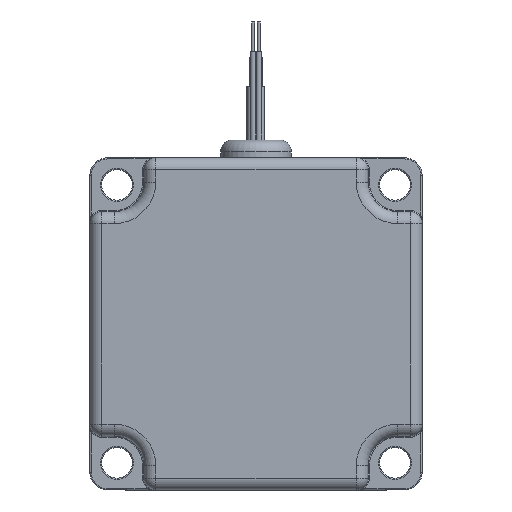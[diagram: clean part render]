
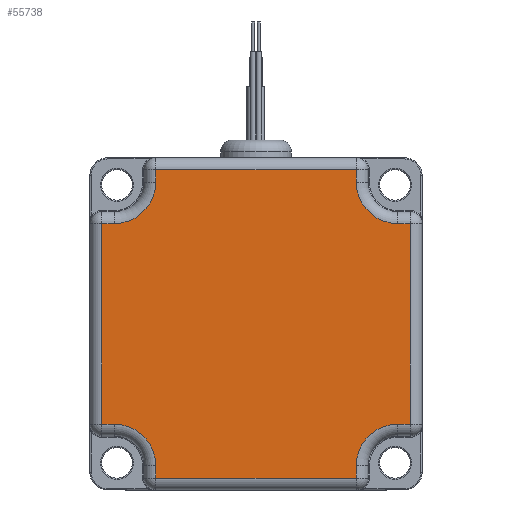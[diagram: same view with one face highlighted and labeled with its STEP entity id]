
A CAD part, front view. The second image highlights one B-rep face of the part: STEP entity #55738.
In plain terms, the highlighted planar face has unit normal (0, -1, 0).
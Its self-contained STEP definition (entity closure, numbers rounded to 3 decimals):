
#727 = CARTESIAN_POINT ( 'NONE',  ( -24., -40., 17. ) ) ;
#2158 = DIRECTION ( 'NONE',  ( -1., 0., 0. ) ) ;
#2282 = CARTESIAN_POINT ( 'NONE',  ( -28.15, -40., 17. ) ) ;
#4671 = VECTOR ( 'NONE', #41211, 1000. ) ;
#4952 = EDGE_CURVE ( 'NONE', #20240, #29095, #12862, .T. ) ;
#5496 = LINE ( 'NONE', #34024, #4671 ) ;
#5805 = VERTEX_POINT ( 'NONE', #17423 ) ;
#7321 = ORIENTED_EDGE ( 'NONE', *, *, #35716, .T. ) ;
#7550 = LINE ( 'NONE', #60393, #38331 ) ;
#7903 = EDGE_CURVE ( 'NONE', #11742, #20240, #38799, .T. ) ;
#8823 = VERTEX_POINT ( 'NONE', #727 ) ;
#9208 = CIRCLE ( 'NONE', #18928, 7. ) ;
#9653 = CARTESIAN_POINT ( 'NONE',  ( 0., -40., -17. ) ) ;
#11529 = CARTESIAN_POINT ( 'NONE',  ( -24., -40., 24. ) ) ;
#11742 = VERTEX_POINT ( 'NONE', #34541 ) ;
#11847 = CARTESIAN_POINT ( 'NONE',  ( 24., -40., -24. ) ) ;
#12862 = CIRCLE ( 'NONE', #44493, 7. ) ;
#12892 = ORIENTED_EDGE ( 'NONE', *, *, #62024, .T. ) ;
#13196 = CARTESIAN_POINT ( 'NONE',  ( 17., -40., 28.15 ) ) ;
#13566 = DIRECTION ( 'NONE',  ( 0., 0., -1. ) ) ;
#15147 = ORIENTED_EDGE ( 'NONE', *, *, #62195, .T. ) ;
#15561 = CARTESIAN_POINT ( 'NONE',  ( 17., -40., 0. ) ) ;
#15682 = LINE ( 'NONE', #33224, #44435 ) ;
#16106 = LINE ( 'NONE', #9653, #40087 ) ;
#16281 = CARTESIAN_POINT ( 'NONE',  ( -17., -40., 26.15 ) ) ;
#16453 = VERTEX_POINT ( 'NONE', #59052 ) ;
#17170 = DIRECTION ( 'NONE',  ( 1., 0., 0. ) ) ;
#17423 = CARTESIAN_POINT ( 'NONE',  ( 17., -40., 26.15 ) ) ;
#17629 = EDGE_CURVE ( 'NONE', #5805, #32455, #7550, .T. ) ;
#17922 = CARTESIAN_POINT ( 'NONE',  ( -24., -40., -24. ) ) ;
#18290 = DIRECTION ( 'NONE',  ( 0., 1., 0. ) ) ;
#18484 = CARTESIAN_POINT ( 'NONE',  ( 26.15, -40., 0. ) ) ;
#18873 = DIRECTION ( 'NONE',  ( 0., 0., 1. ) ) ;
#18928 = AXIS2_PLACEMENT_3D ( 'NONE', #17922, #34361, #29737 ) ;
#19862 = VERTEX_POINT ( 'NONE', #26245 ) ;
#20240 = VERTEX_POINT ( 'NONE', #71372 ) ;
#20497 = DIRECTION ( 'NONE',  ( 0., 0., -1. ) ) ;
#20547 = CARTESIAN_POINT ( 'NONE',  ( -26.15, -40., -19. ) ) ;
#22836 = VECTOR ( 'NONE', #25446, 1000. ) ;
#23837 = AXIS2_PLACEMENT_3D ( 'NONE', #32729, #67710, #20497 ) ;
#24506 = VERTEX_POINT ( 'NONE', #63405 ) ;
#25045 = EDGE_LOOP ( 'NONE', ( #36394, #62938, #32869, #48010, #42410, #29382, #61009, #70482, #55809, #69813, #7321, #15147, #63431, #48466, #12892, #65326 ) ) ;
#25246 = VERTEX_POINT ( 'NONE', #26576 ) ;
#25446 = DIRECTION ( 'NONE',  ( -1., 0., 0. ) ) ;
#26245 = CARTESIAN_POINT ( 'NONE',  ( 17., -40., 24. ) ) ;
#26469 = LINE ( 'NONE', #72621, #72963 ) ;
#26576 = CARTESIAN_POINT ( 'NONE',  ( -26.15, -40., -17. ) ) ;
#27231 = CIRCLE ( 'NONE', #71099, 7. ) ;
#27263 = VECTOR ( 'NONE', #64183, 1000. ) ;
#27959 = EDGE_CURVE ( 'NONE', #24506, #25246, #38846, .T. ) ;
#29095 = VERTEX_POINT ( 'NONE', #36996 ) ;
#29382 = ORIENTED_EDGE ( 'NONE', *, *, #48099, .T. ) ;
#29423 = DIRECTION ( 'NONE',  ( 0., 0., -1. ) ) ;
#29737 = DIRECTION ( 'NONE',  ( 0., 0., -1. ) ) ;
#31160 = EDGE_CURVE ( 'NONE', #55578, #65238, #9208, .T. ) ;
#32455 = VERTEX_POINT ( 'NONE', #16281 ) ;
#32729 = CARTESIAN_POINT ( 'NONE',  ( 0., -40., 0. ) ) ;
#32869 = ORIENTED_EDGE ( 'NONE', *, *, #7903, .T. ) ;
#33224 = CARTESIAN_POINT ( 'NONE',  ( 19., -40., -26.15 ) ) ;
#34024 = CARTESIAN_POINT ( 'NONE',  ( 28.15, -40., -17. ) ) ;
#34148 = AXIS2_PLACEMENT_3D ( 'NONE', #11529, #53073, #64426 ) ;
#34361 = DIRECTION ( 'NONE',  ( 0., 1., 0. ) ) ;
#34541 = CARTESIAN_POINT ( 'NONE',  ( 17., -40., -26.15 ) ) ;
#35657 = CARTESIAN_POINT ( 'NONE',  ( 0., -40., 17. ) ) ;
#35716 = EDGE_CURVE ( 'NONE', #32455, #61986, #36405, .T. ) ;
#35742 = VECTOR ( 'NONE', #13566, 1000. ) ;
#36394 = ORIENTED_EDGE ( 'NONE', *, *, #61744, .T. ) ;
#36405 = LINE ( 'NONE', #42121, #35742 ) ;
#36996 = CARTESIAN_POINT ( 'NONE',  ( 24., -40., -17. ) ) ;
#38191 = CARTESIAN_POINT ( 'NONE',  ( 24., -40., 17. ) ) ;
#38331 = VECTOR ( 'NONE', #2158, 1000. ) ;
#38799 = LINE ( 'NONE', #15561, #53934 ) ;
#38846 = LINE ( 'NONE', #20547, #64356 ) ;
#39316 = EDGE_CURVE ( 'NONE', #58429, #71346, #70681, .T. ) ;
#39939 = EDGE_CURVE ( 'NONE', #50128, #11742, #15682, .T. ) ;
#40087 = VECTOR ( 'NONE', #68652, 1000. ) ;
#41211 = DIRECTION ( 'NONE',  ( 1., 0., 0. ) ) ;
#41473 = EDGE_CURVE ( 'NONE', #29095, #16453, #5496, .T. ) ;
#42121 = CARTESIAN_POINT ( 'NONE',  ( -17., -40., 0. ) ) ;
#42410 = ORIENTED_EDGE ( 'NONE', *, *, #41473, .T. ) ;
#42518 = DIRECTION ( 'NONE',  ( 0., 0., 1. ) ) ;
#43038 = LINE ( 'NONE', #2282, #22836 ) ;
#43839 = DIRECTION ( 'NONE',  ( 0., 0., -1. ) ) ;
#44435 = VECTOR ( 'NONE', #17170, 1000. ) ;
#44493 = AXIS2_PLACEMENT_3D ( 'NONE', #11847, #18290, #69752 ) ;
#48010 = ORIENTED_EDGE ( 'NONE', *, *, #4952, .T. ) ;
#48099 = EDGE_CURVE ( 'NONE', #16453, #58429, #71079, .T. ) ;
#48466 = ORIENTED_EDGE ( 'NONE', *, *, #27959, .T. ) ;
#50128 = VERTEX_POINT ( 'NONE', #63133 ) ;
#52282 = CIRCLE ( 'NONE', #34148, 7. ) ;
#53073 = DIRECTION ( 'NONE',  ( 0., 1., 0. ) ) ;
#53934 = VECTOR ( 'NONE', #62023, 1000. ) ;
#53937 = VECTOR ( 'NONE', #42518, 1000. ) ;
#54361 = EDGE_CURVE ( 'NONE', #71346, #19862, #27231, .T. ) ;
#55578 = VERTEX_POINT ( 'NONE', #64335 ) ;
#55738 = ADVANCED_FACE ( 'NONE', ( #67334 ), #74190, .T. ) ;
#55809 = ORIENTED_EDGE ( 'NONE', *, *, #72256, .T. ) ;
#58429 = VERTEX_POINT ( 'NONE', #60912 ) ;
#59052 = CARTESIAN_POINT ( 'NONE',  ( 26.15, -40., -17. ) ) ;
#59532 = CARTESIAN_POINT ( 'NONE',  ( -17., -40., -24. ) ) ;
#60019 = LINE ( 'NONE', #13196, #53937 ) ;
#60393 = CARTESIAN_POINT ( 'NONE',  ( 0., -40., 26.15 ) ) ;
#60912 = CARTESIAN_POINT ( 'NONE',  ( 26.15, -40., 17. ) ) ;
#61009 = ORIENTED_EDGE ( 'NONE', *, *, #39316, .T. ) ;
#61744 = EDGE_CURVE ( 'NONE', #65238, #50128, #26469, .T. ) ;
#61986 = VERTEX_POINT ( 'NONE', #71794 ) ;
#62023 = DIRECTION ( 'NONE',  ( 0., 0., 1. ) ) ;
#62024 = EDGE_CURVE ( 'NONE', #25246, #55578, #16106, .T. ) ;
#62195 = EDGE_CURVE ( 'NONE', #61986, #8823, #52282, .T. ) ;
#62938 = ORIENTED_EDGE ( 'NONE', *, *, #39939, .T. ) ;
#63133 = CARTESIAN_POINT ( 'NONE',  ( -17., -40., -26.15 ) ) ;
#63338 = DIRECTION ( 'NONE',  ( 0., 1., 0. ) ) ;
#63405 = CARTESIAN_POINT ( 'NONE',  ( -26.15, -40., 17. ) ) ;
#63431 = ORIENTED_EDGE ( 'NONE', *, *, #74020, .T. ) ;
#63542 = VECTOR ( 'NONE', #18873, 1000. ) ;
#64183 = DIRECTION ( 'NONE',  ( -1., 0., 0. ) ) ;
#64335 = CARTESIAN_POINT ( 'NONE',  ( -24., -40., -17. ) ) ;
#64356 = VECTOR ( 'NONE', #43839, 1000. ) ;
#64426 = DIRECTION ( 'NONE',  ( 0., 0., -1. ) ) ;
#65238 = VERTEX_POINT ( 'NONE', #59532 ) ;
#65326 = ORIENTED_EDGE ( 'NONE', *, *, #31160, .T. ) ;
#65737 = DIRECTION ( 'NONE',  ( 0., 0., -1. ) ) ;
#67334 = FACE_OUTER_BOUND ( 'NONE', #25045, .T. ) ;
#67710 = DIRECTION ( 'NONE',  ( 0., -1., 0. ) ) ;
#68652 = DIRECTION ( 'NONE',  ( 1., 0., 0. ) ) ;
#69059 = CARTESIAN_POINT ( 'NONE',  ( 24., -40., 24. ) ) ;
#69752 = DIRECTION ( 'NONE',  ( 0., 0., -1. ) ) ;
#69813 = ORIENTED_EDGE ( 'NONE', *, *, #17629, .T. ) ;
#70482 = ORIENTED_EDGE ( 'NONE', *, *, #54361, .T. ) ;
#70681 = LINE ( 'NONE', #35657, #27263 ) ;
#71079 = LINE ( 'NONE', #18484, #63542 ) ;
#71099 = AXIS2_PLACEMENT_3D ( 'NONE', #69059, #63338, #29423 ) ;
#71346 = VERTEX_POINT ( 'NONE', #38191 ) ;
#71372 = CARTESIAN_POINT ( 'NONE',  ( 17., -40., -24. ) ) ;
#71794 = CARTESIAN_POINT ( 'NONE',  ( -17., -40., 24. ) ) ;
#72256 = EDGE_CURVE ( 'NONE', #19862, #5805, #60019, .T. ) ;
#72621 = CARTESIAN_POINT ( 'NONE',  ( -17., -40., -28.15 ) ) ;
#72963 = VECTOR ( 'NONE', #65737, 1000. ) ;
#74020 = EDGE_CURVE ( 'NONE', #8823, #24506, #43038, .T. ) ;
#74190 = PLANE ( 'NONE',  #23837 ) ;
